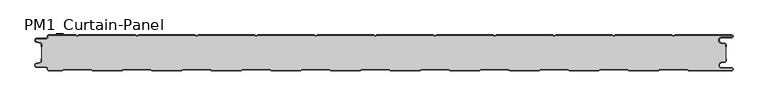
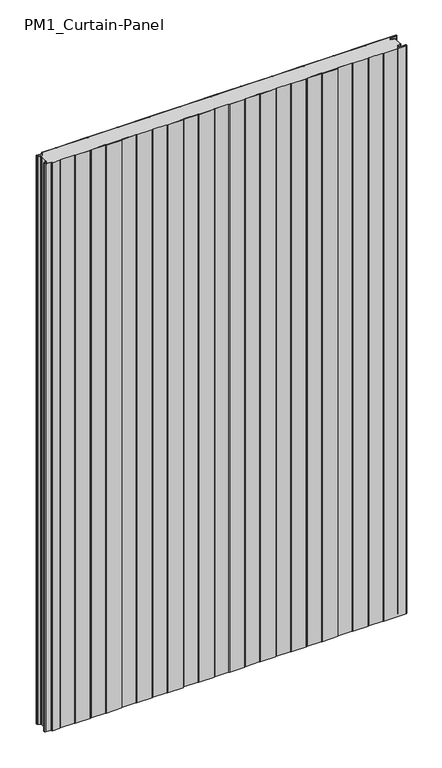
"""IFC4 building model written with IfcOpenShell, lengths in millimetres: plate geometry, PM1_Curtain-Panel : ACH_PM1_Stone-wool-Panel_60M."""

from ifc_helpers import new_model, si_unit, point, frame_2d, origin, origin_with_axes, place, context, project, spatial, polyline, circle_curve, trimmed, segment, composite_curve, outline, extrude, source, transform, mapped, element, save


def pm1_curtain_panel_c875587f(model_context):
    return source(origin(), model_context, "Body", "SweptSolid", [
        extrude(outline(composite_curve([segment(trimmed(circle_curve(frame_2d((-577.0, -15.878557)), 2.0), [point((-575.0, -15.878557))], [point((-576.5500978, -13.9298169))], True, "CARTESIAN"), True, "CONTINUOUS"), segment(polyline([(-576.5500978, -13.9298169), (-582.7098239, -12.507732)]), True, "CONTINUOUS"), segment(trimmed(circle_curve(frame_2d((-581.9, -9.0)), 3.6), [point((-582.7098239, -12.507732))], [point((-581.9, -5.4))], False, "CARTESIAN"), True, "CONTINUOUS"), segment(polyline([(-581.9, -5.4), (-566.4, -5.4)]), True, "CONTINUOUS"), segment(trimmed(circle_curve(frame_2d((-566.4, -3.4)), 2.0), [point((-566.4, -5.4))], [point((-564.4, -3.4))], True, "CARTESIAN"), True, "CONTINUOUS"), segment(polyline([(-564.4, -3.4), (-564.4, -2.0)]), True, "CONTINUOUS"), segment(trimmed(circle_curve(frame_2d((-562.4, -2.0)), 2.0), [point((-564.4, -2.0))], [point((-562.4, 0.0))], False, "CARTESIAN"), True, "CONTINUOUS"), segment(polyline([(-562.4, 0.0), (-517.0999995, 0.0), (-514.4, -1.5588455), (-511.7000005, 0.0), (-417.0999995, 0.0), (-414.4, -1.5588455), (-411.7000005, 0.0), (-317.0999995, 0.0), (-314.4, -1.5588455), (-311.7000005, 0.0), (-217.0999995, 0.0), (-214.4, -1.5588455), (-211.7000005, 0.0), (-117.0999995, 0.0), (-114.4, -1.5588455), (-111.7000005, 0.0), (-17.0999995, 0.0), (-14.4, -1.5588455), (-11.7000005, 0.0), (82.9000005, 0.0), (85.6, -1.5588455), (88.2999995, 0.0), (182.9000005, 0.0), (185.6, -1.5588455), (188.2999995, 0.0), (282.9000005, 0.0), (285.6, -1.5588455), (288.2999995, 0.0), (382.9000005, 0.0), (385.6, -1.5588455), (388.2999995, 0.0), (482.9000005, 0.0), (485.6, -1.5588455), (488.2999995, 0.0), (583.1, 0.0)]), True, "CONTINUOUS"), segment(trimmed(circle_curve(frame_2d((583.1, -2.5)), 2.5), [point((583.1, 0.0))], [point((583.1, -5.0))], False, "CARTESIAN"), True, "CONTINUOUS"), segment(polyline([(583.1, -5.0), (566.1, -5.0)]), True, "CONTINUOUS"), segment(trimmed(circle_curve(frame_2d((566.1, -9.0)), 4.0), [point((566.1, -5.0))], [point((565.405407, -12.939231))], True, "CARTESIAN"), True, "CONTINUOUS"), segment(polyline([(565.405407, -12.939231), (571.8514855, -14.0758491)]), True, "CONTINUOUS"), segment(trimmed(circle_curve(frame_2d((571.4, -16.6363492)), 2.6), [point((571.8514855, -14.0758491))], [point((574.0, -16.6363492))], False, "CARTESIAN"), True, "CONTINUOUS"), segment(polyline([(574.0, -16.6363492), (574.0, -20.0), (573.2, -20.0), (573.2, -16.6363492)]), True, "CONTINUOUS"), segment(trimmed(circle_curve(frame_2d((571.4, -16.6363492)), 1.8), [point((573.2, -16.6363492))], [point((571.7125669, -14.8636953))], True, "CARTESIAN"), True, "CONTINUOUS"), segment(polyline([(571.7125669, -14.8636953), (565.2664884, -13.7270772)]), True, "CONTINUOUS"), segment(trimmed(circle_curve(frame_2d((566.1, -9.0)), 4.8), [point((565.2664884, -13.7270772))], [point((566.1, -4.2))], False, "CARTESIAN"), True, "CONTINUOUS"), segment(polyline([(566.1, -4.2), (583.1, -4.2)]), True, "CONTINUOUS"), segment(trimmed(circle_curve(frame_2d((583.1, -2.5)), 1.7), [point((583.1, -4.2))], [point((583.1, -0.8))], True, "CARTESIAN"), True, "CONTINUOUS"), segment(polyline([(583.1, -0.8), (488.5143588, -0.8), (485.6, -2.482606), (482.6856412, -0.8), (388.5143588, -0.8), (385.6, -2.482606), (382.6856412, -0.8), (288.5143588, -0.8), (285.6, -2.482606), (282.6856412, -0.8), (188.5143588, -0.8), (185.6, -2.482606), (182.6856412, -0.8), (88.5143588, -0.8), (85.6, -2.482606), (82.6856412, -0.8), (-11.4856412, -0.8), (-14.4, -2.482606), (-17.3143588, -0.8), (-111.4856412, -0.8), (-114.4, -2.482606), (-117.3143588, -0.8), (-211.4856412, -0.8), (-214.4, -2.482606), (-217.3143588, -0.8), (-311.4856412, -0.8), (-314.4, -2.482606), (-317.3143588, -0.8), (-411.4856412, -0.8), (-414.4, -2.482606), (-417.3143588, -0.8), (-511.4856412, -0.8), (-514.4, -2.482606), (-517.3143588, -0.8), (-562.4, -0.8)]), True, "CONTINUOUS"), segment(trimmed(circle_curve(frame_2d((-562.4, -2.0)), 1.2), [point((-562.4, -0.8))], [point((-563.6, -2.0))], True, "CARTESIAN"), True, "CONTINUOUS"), segment(polyline([(-563.6, -2.0), (-563.6, -3.4)]), True, "CONTINUOUS"), segment(trimmed(circle_curve(frame_2d((-566.4, -3.4)), 2.8), [point((-563.6, -3.4))], [point((-566.4, -6.2))], False, "CARTESIAN"), True, "CONTINUOUS"), segment(polyline([(-566.4, -6.2), (-581.9, -6.2)]), True, "CONTINUOUS"), segment(trimmed(circle_curve(frame_2d((-581.9, -9.0)), 2.8), [point((-581.9, -6.2))], [point((-582.529863, -11.7282362))], True, "CARTESIAN"), True, "CONTINUOUS"), segment(polyline([(-582.529863, -11.7282362), (-576.370137, -13.150321)]), True, "CONTINUOUS"), segment(trimmed(circle_curve(frame_2d((-577.0, -15.878557)), 2.8), [point((-576.370137, -13.150321))], [point((-574.2, -15.878557))], False, "CARTESIAN"), True, "CONTINUOUS"), segment(polyline([(-574.2, -15.878557), (-574.2, -20.0), (-575.0, -20.0), (-575.0, -15.878557)]), True, "CONTINUOUS")], self_intersect=False)), origin_with_axes(), (0.0, 0.0, 1.0), 1945.7507136),
        extrude(outline(composite_curve([segment(polyline([(-574.2, -44.121443), (-574.2, -15.8785573)]), True, "CONTINUOUS"), segment(trimmed(circle_curve(frame_2d((-577.0, -15.8785573)), 2.8), [point((-574.2, -15.8785573))], [point((-576.370137, -13.1503212))], True, "CARTESIAN"), True, "CONTINUOUS"), segment(polyline([(-576.370137, -13.1503212), (-582.5298631, -11.7282362)]), True, "CONTINUOUS"), segment(trimmed(circle_curve(frame_2d((-581.9, -9.0)), 2.8), [point((-582.5298631, -11.7282362))], [point((-581.9, -6.2))], False, "CARTESIAN"), True, "CONTINUOUS"), segment(polyline([(-581.9, -6.2), (-566.4000001, -6.2)]), True, "CONTINUOUS"), segment(trimmed(circle_curve(frame_2d((-566.4000001, -3.4)), 2.8), [point((-566.4000001, -6.2))], [point((-563.6000001, -3.4))], True, "CARTESIAN"), True, "CONTINUOUS"), segment(polyline([(-563.6000001, -3.4), (-563.6000001, -2.0)]), True, "CONTINUOUS"), segment(trimmed(circle_curve(frame_2d((-562.4000001, -2.0)), 1.2), [point((-563.6000001, -2.0))], [point((-562.4000001, -0.8))], False, "CARTESIAN"), True, "CONTINUOUS"), segment(polyline([(-562.4000001, -0.8), (-517.3143589, -0.8), (-514.4000001, -2.482606), (-511.4856412, -0.8), (-417.3143589, -0.8), (-414.4000001, -2.482606), (-411.4856412, -0.8), (-317.3143589, -0.8), (-314.4000001, -2.482606), (-311.4856412, -0.8), (-217.3143589, -0.8), (-214.4000001, -2.482606), (-211.4856412, -0.8), (-117.3143589, -0.8), (-114.4000001, -2.482606), (-111.4856412, -0.8), (-17.3143589, -0.8), (-14.4000001, -2.482606), (-11.4856412, -0.8), (82.6856411, -0.8), (85.5999999, -2.482606), (88.5143588, -0.8), (182.6856411, -0.8), (185.5999999, -2.482606), (188.5143588, -0.8), (282.6856411, -0.8), (285.5999999, -2.482606), (288.5143588, -0.8), (382.6856411, -0.8), (385.5999999, -2.482606), (388.5143588, -0.8), (482.6856411, -0.8), (485.6, -2.482606), (488.5143588, -0.8), (583.1, -0.8)]), True, "CONTINUOUS"), segment(trimmed(circle_curve(frame_2d((583.1, -2.5)), 1.7), [point((583.1, -0.8))], [point((583.1, -4.2))], False, "CARTESIAN"), True, "CONTINUOUS"), segment(polyline([(583.1, -4.2), (566.1, -4.2)]), True, "CONTINUOUS"), segment(trimmed(circle_curve(frame_2d((566.1, -9.0)), 4.8), [point((566.1, -4.2))], [point((565.2664883, -13.7270771))], True, "CARTESIAN"), True, "CONTINUOUS"), segment(polyline([(565.2664883, -13.7270771), (571.7125668, -14.8636953)]), True, "CONTINUOUS"), segment(trimmed(circle_curve(frame_2d((571.4, -16.6363492)), 1.8), [point((571.7125668, -14.8636953))], [point((573.2, -16.6363492))], False, "CARTESIAN"), True, "CONTINUOUS"), segment(polyline([(573.2, -16.6363492), (573.2, -43.363652)]), True, "CONTINUOUS"), segment(trimmed(circle_curve(frame_2d((571.4, -43.363652)), 1.8), [point((573.2, -43.363652))], [point((571.7125666, -45.1363059))], False, "CARTESIAN"), True, "CONTINUOUS"), segment(polyline([(571.7125666, -45.1363059), (565.266489, -46.272923)]), True, "CONTINUOUS"), segment(trimmed(circle_curve(frame_2d((566.1, -51.0000002)), 4.7999999), [point((565.266489, -46.272923))], [point((566.1, -55.8000001))], True, "CARTESIAN"), True, "CONTINUOUS"), segment(polyline([(566.1, -55.8000001), (583.1, -55.8000001)]), True, "CONTINUOUS"), segment(trimmed(circle_curve(frame_2d((583.1, -57.5)), 1.7), [point((583.1, -55.8000001))], [point((583.1, -59.2))], False, "CARTESIAN"), True, "CONTINUOUS"), segment(polyline([(583.1, -59.2), (510.8105122, -59.2), (508.2124346, -57.7), (462.9837184, -57.7), (460.3856408, -59.2), (410.8105122, -59.2), (408.2124346, -57.7), (362.9837184, -57.7), (360.3856408, -59.2), (310.8105122, -59.2), (308.2124346, -57.7), (262.9837184, -57.7), (260.3856408, -59.2), (210.8105122, -59.2), (208.2124346, -57.7), (162.9837184, -57.7), (160.3856408, -59.2), (110.8105122, -59.2), (108.2124346, -57.7), (62.9837184, -57.7), (60.3856408, -59.2), (10.8105122, -59.2), (8.2124346, -57.7), (-37.0162816, -57.7), (-39.6143592, -59.2), (-89.1894878, -59.2), (-91.7875654, -57.7), (-137.0162816, -57.7), (-139.6143592, -59.2), (-189.1894878, -59.2), (-191.7875654, -57.7), (-237.0162816, -57.7), (-239.6143592, -59.2), (-289.1894878, -59.2), (-291.7875654, -57.7), (-337.0162816, -57.7), (-339.6143592, -59.2), (-389.1894878, -59.2), (-391.7875654, -57.7), (-437.0162816, -57.7), (-439.6143592, -59.2), (-489.1894878, -59.2), (-491.7875654, -57.7), (-537.0162816, -57.7), (-539.6143592, -59.2), (-562.4, -59.2)]), True, "CONTINUOUS"), segment(trimmed(circle_curve(frame_2d((-562.4, -58.0)), 1.2), [point((-562.4, -59.2))], [point((-563.6, -58.0))], False, "CARTESIAN"), True, "CONTINUOUS"), segment(polyline([(-563.6, -58.0), (-563.6, -56.5999998)]), True, "CONTINUOUS"), segment(trimmed(circle_curve(frame_2d((-566.4, -56.5999998)), 2.8), [point((-563.6, -56.5999998))], [point((-566.4, -53.7999998))], True, "CARTESIAN"), True, "CONTINUOUS"), segment(polyline([(-566.4, -53.7999998), (-581.9, -53.7999998)]), True, "CONTINUOUS"), segment(trimmed(circle_curve(frame_2d((-581.9, -51.0)), 2.7999998), [point((-581.9, -53.7999998))], [point((-582.529863, -48.271764))], False, "CARTESIAN"), True, "CONTINUOUS"), segment(polyline([(-582.529863, -48.271764), (-576.370137, -46.8496792)]), True, "CONTINUOUS"), segment(trimmed(circle_curve(frame_2d((-577.0, -44.121443)), 2.8), [point((-576.370137, -46.8496792))], [point((-574.2, -44.121443))], True, "CARTESIAN"), True, "CONTINUOUS")], self_intersect=False)), origin_with_axes(), (0.0, 0.0, 1.0), 1945.7507136),
        extrude(outline(composite_curve([segment(trimmed(circle_curve(frame_2d((-562.4, -58.0)), 2.0), [point((-562.4, -60.0))], [point((-564.4, -58.0))], False, "CARTESIAN"), True, "CONTINUOUS"), segment(polyline([(-564.4, -58.0), (-564.4, -56.6)]), True, "CONTINUOUS"), segment(trimmed(circle_curve(frame_2d((-566.4, -56.6)), 2.0), [point((-564.4, -56.6))], [point((-566.4, -54.6))], True, "CARTESIAN"), True, "CONTINUOUS"), segment(polyline([(-566.4, -54.6), (-581.9, -54.6)]), True, "CONTINUOUS"), segment(trimmed(circle_curve(frame_2d((-581.9, -51.0)), 3.6), [point((-581.9, -54.6))], [point((-582.7098239, -47.4922678))], False, "CARTESIAN"), True, "CONTINUOUS"), segment(polyline([(-582.7098239, -47.4922678), (-576.5500979, -46.070183)]), True, "CONTINUOUS"), segment(trimmed(circle_curve(frame_2d((-577.0, -44.121443)), 2.0), [point((-576.5500979, -46.070183))], [point((-575.0, -44.121443))], True, "CARTESIAN"), True, "CONTINUOUS"), segment(polyline([(-575.0, -44.121443), (-575.0, -40.0), (-574.2, -40.0), (-574.2, -44.121443)]), True, "CONTINUOUS"), segment(trimmed(circle_curve(frame_2d((-577.0, -44.121443)), 2.8), [point((-574.2, -44.121443))], [point((-576.370137, -46.8496792))], False, "CARTESIAN"), True, "CONTINUOUS"), segment(polyline([(-576.370137, -46.8496792), (-582.529863, -48.271764)]), True, "CONTINUOUS"), segment(trimmed(circle_curve(frame_2d((-581.9, -51.0)), 2.8), [point((-582.529863, -48.271764))], [point((-581.9, -53.8))], True, "CARTESIAN"), True, "CONTINUOUS"), segment(polyline([(-581.9, -53.8), (-566.4, -53.8)]), True, "CONTINUOUS"), segment(trimmed(circle_curve(frame_2d((-566.4, -56.6)), 2.8), [point((-566.4, -53.8))], [point((-563.6, -56.6))], False, "CARTESIAN"), True, "CONTINUOUS"), segment(polyline([(-563.6, -56.6), (-563.6, -58.0)]), True, "CONTINUOUS"), segment(trimmed(circle_curve(frame_2d((-562.4, -58.0)), 1.2), [point((-563.6, -58.0))], [point((-562.4, -59.2))], True, "CARTESIAN"), True, "CONTINUOUS"), segment(polyline([(-562.4, -59.2), (-539.6143592, -59.2), (-537.0162816, -57.7), (-491.7875654, -57.7), (-489.1894878, -59.2), (-439.6143592, -59.2), (-437.0162816, -57.7), (-391.7875654, -57.7), (-389.1894878, -59.2), (-339.6143592, -59.2), (-337.0162816, -57.7), (-291.7875654, -57.7), (-289.1894878, -59.2), (-239.6143592, -59.2), (-237.0162816, -57.7), (-191.7875654, -57.7), (-189.1894878, -59.2), (-139.6143592, -59.2), (-137.0162816, -57.7), (-91.7875654, -57.7), (-89.1894878, -59.2), (-39.6143592, -59.2), (-37.0162816, -57.7), (8.2124346, -57.7), (10.8105122, -59.2), (60.3856408, -59.2), (62.9837184, -57.7), (108.2124346, -57.7), (110.8105122, -59.2), (160.3856408, -59.2), (162.9837184, -57.7), (208.2124346, -57.7), (210.8105122, -59.2), (260.3856408, -59.2), (262.9837184, -57.7), (308.2124346, -57.7), (310.8105122, -59.2), (360.3856408, -59.2), (362.9837184, -57.7), (408.2124346, -57.7), (410.8105122, -59.2), (460.3856408, -59.2), (462.9837184, -57.7), (508.2124346, -57.7), (510.8105122, -59.2), (583.1, -59.2)]), True, "CONTINUOUS"), segment(trimmed(circle_curve(frame_2d((583.1, -57.5)), 1.7), [point((583.1, -59.2))], [point((583.1, -55.8))], True, "CARTESIAN"), True, "CONTINUOUS"), segment(polyline([(583.1, -55.8), (566.1, -55.8)]), True, "CONTINUOUS"), segment(trimmed(circle_curve(frame_2d((566.1, -51.0)), 4.8), [point((566.1, -55.8))], [point((565.266489, -46.2729227))], False, "CARTESIAN"), True, "CONTINUOUS"), segment(polyline([(565.266489, -46.2729227), (571.7125666, -45.1363058)]), True, "CONTINUOUS"), segment(trimmed(circle_curve(frame_2d((571.4, -43.363652)), 1.8), [point((571.7125666, -45.1363058))], [point((573.2, -43.363652))], True, "CARTESIAN"), True, "CONTINUOUS"), segment(polyline([(573.2, -43.363652), (573.2, -40.0), (574.0, -40.0), (574.0, -43.363652)]), True, "CONTINUOUS"), segment(trimmed(circle_curve(frame_2d((571.4, -43.363652)), 2.6), [point((574.0, -43.363652))], [point((571.8514851, -45.9241522))], False, "CARTESIAN"), True, "CONTINUOUS"), segment(polyline([(571.8514851, -45.9241522), (565.4054075, -47.0607691)]), True, "CONTINUOUS"), segment(trimmed(circle_curve(frame_2d((566.1, -51.0)), 4.0), [point((565.4054075, -47.0607691))], [point((566.1, -55.0))], True, "CARTESIAN"), True, "CONTINUOUS"), segment(polyline([(566.1, -55.0), (583.1, -55.0)]), True, "CONTINUOUS"), segment(trimmed(circle_curve(frame_2d((583.1, -57.5)), 2.5), [point((583.1, -55.0))], [point((583.1, -60.0))], False, "CARTESIAN"), True, "CONTINUOUS"), segment(polyline([(583.1, -60.0), (510.5961529, -60.0), (507.9980753, -58.5), (463.1980777, -58.5), (460.6000001, -60.0), (410.5961529, -60.0), (407.9980753, -58.5), (363.1980777, -58.5), (360.6000001, -60.0), (310.5961529, -60.0), (307.9980753, -58.5), (263.1980777, -58.5), (260.6000001, -60.0), (210.5961529, -60.0), (207.9980753, -58.5), (163.1980777, -58.5), (160.6000001, -60.0), (110.5961529, -60.0), (107.9980753, -58.5), (63.1980777, -58.5), (60.6000001, -60.0), (10.5961529, -60.0), (7.9980753, -58.5), (-36.8019223, -58.5), (-39.3999999, -60.0), (-89.4038471, -60.0), (-92.0019247, -58.5), (-136.8019223, -58.5), (-139.3999999, -60.0), (-189.4038471, -60.0), (-192.0019247, -58.5), (-236.8019223, -58.5), (-239.3999999, -60.0), (-289.4038471, -60.0), (-292.0019247, -58.5), (-336.8019223, -58.5), (-339.3999999, -60.0), (-389.4038471, -60.0), (-392.0019247, -58.5), (-436.8019223, -58.5), (-439.3999999, -60.0), (-489.4038471, -60.0), (-492.0019247, -58.5), (-536.8019223, -58.5), (-539.3999999, -60.0), (-562.4, -60.0)]), True, "CONTINUOUS")], self_intersect=False)), origin_with_axes(), (0.0, 0.0, 1.0), 1945.7507136),
    ])


if __name__ == "__main__":
    model = new_model("IFC4")
    model_context = context("Model", 3, world=origin())
    ifc_project = project(units=[si_unit("LENGTHUNIT", "METRE", prefix="MILLI")], contexts=[model_context])
    site = spatial("IfcSite", under=ifc_project)
    building = spatial("IfcBuilding", under=site)
    placement = place(None, origin())
    pm1_curtain_panel_shape = pm1_curtain_panel_c875587f(model_context)
    element("IfcPlate", 1, ObjectType="PM1_Curtain-Panel : ACH_PM1_Stone-wool-Panel_60M", at=placement, inside=building, context=model_context, shape_type="MappedRepresentation", body=[
        mapped(pm1_curtain_panel_shape, transform((0.0, 0.0, 0.0), x_axis=(1.0, 0.0, 0.0), y_axis=(0.0, 1.0, 0.0), z_axis=(0.0, 0.0, 1.0))),
    ])
    save(model, "model.ifc")
